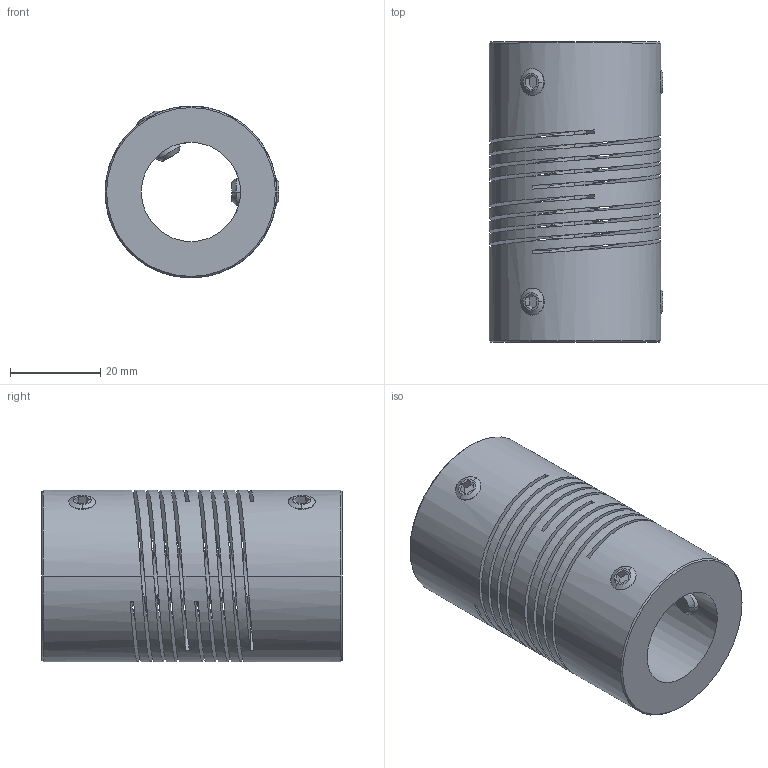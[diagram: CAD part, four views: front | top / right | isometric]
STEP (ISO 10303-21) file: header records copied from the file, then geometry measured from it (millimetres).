
FILE_DESCRIPTION((''),'2;1');
FILE_NAME('726_38_ASM','2006-12-05T',('Gary Melling'),(''),'PRO/ENGINEER BY PARAMETRIC TECHNOLOGY CORPORATION, 2006240','PRO/ENGINEER BY PARAMETRIC TECHNOLOGY CORPORATION, 2006240','');
FILE_SCHEMA(('CONFIG_CONTROL_DESIGN'));
Length unit declared in the file: millimetre
Products named in the file (3): 726_38; GS_6M; 726_38_ASM
Assembly tree (5 placements, depth 2):
  726_38_ASM
    726_38
    GS_6M  x4
Bounding box: 38.55 x 66.7 x 38.1 mm (x, y, z)
Volume: 44695.3 mm3; surface area: 27057.7 mm2
Topology: 5 solids, 5 shells, 132 faces, 364 edges, 232 vertices
Faces by surface type: plane 52, cylinder 48, cone 20, bspline 12
Entity records: 5494 total; most frequent: CARTESIAN_POINT 3195, ORIENTED_EDGE 536, DIRECTION 354, EDGE_CURVE 268, VERTEX_POINT 172, VECTOR 132, LINE 132, AXIS2_PLACEMENT_3D 111
